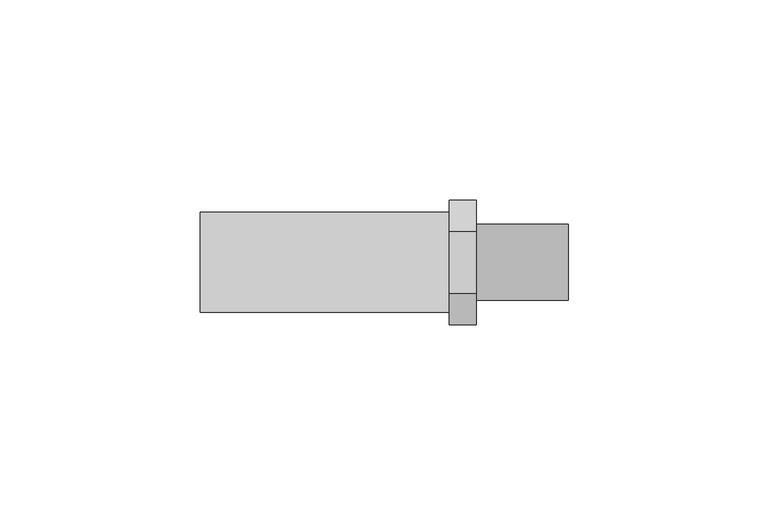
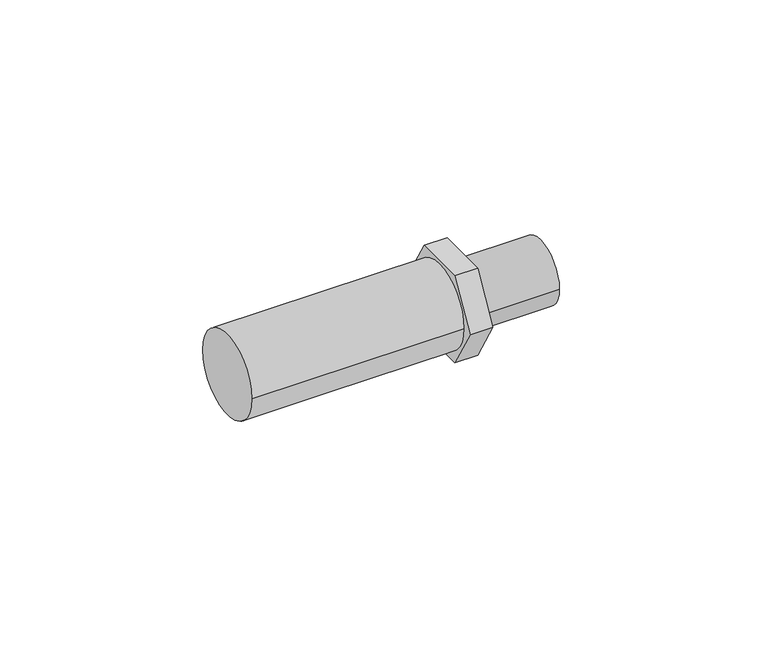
"""IFC4 building model written with IfcOpenShell, lengths in millimetres: pipe fitting geometry, 01011113 : Douilles."""

from ifc_helpers import new_model, si_unit, point, frame, origin, origin_2d, place, context, project, spatial, circle_curve, trimmed, segment, composite_curve, outline, extrude, source, transform, mapped, element, save
from ifc_brep_helpers import plane_surface, cylinder_surface, advanced_brep


def pipe_fitting_440be6f9(model_context):
    return source(origin(), model_context, "Body", "SolidModel", [
        extrude(outline(composite_curve([segment(trimmed(circle_curve(origin_2d(), 12.5), [point((12.5, 0.0))], [point((-12.5, 0.0))], False, "CARTESIAN"), True, "CONTINUOUS"), segment(trimmed(circle_curve(origin_2d(), 12.5), [point((-12.5, 0.0))], [point((12.5, 0.0))], False, "CARTESIAN"), True, "CONTINUOUS")], self_intersect=False)), frame((-46.0, 0.0, 0.0), z_axis=(1.0, 0.0, 0.0), x_axis=(0.0, 1.0, 0.0)), (0.0, 0.0, 1.0), 62.25),
        advanced_brep(
        [(23.0, -7.7942286, 13.5), (23.0, -15.5884573, 0.0), (23.0, -7.7942286, -13.5), (23.0, 7.7942286, -13.5), (23.0, 15.5884573, 0.0), (23.0, 7.7942286, 13.5), (23.0, -9.525, 0.0), (23.0, 9.525, 0.0), (16.25, -7.7942286, 13.5), (16.25, 7.7942286, 13.5), (16.25, 15.5884573, 0.0), (16.25, 7.7942286, -13.5), (16.25, -7.7942286, -13.5), (16.25, -15.5884573, 0.0), (46.0, -9.525, 0.0), (46.0, 9.525, 0.0)],
        [
            (0, 1),
            (1, 2),
            (2, 3),
            (3, 4),
            (4, 5),
            (5, 0),
            (6, 7, circle_curve(frame((23.0, 0.0, 0.0), z_axis=(-1.0, 0.0, 0.0), x_axis=(0.0, 1.0, 0.0)), 9.525)),
            (7, 6, circle_curve(frame((23.0, 0.0, 0.0), z_axis=(-1.0, 0.0, 0.0), x_axis=(0.0, 1.0, 0.0)), 9.525)),
            (8, 9),
            (9, 10),
            (10, 11),
            (11, 12),
            (12, 13),
            (13, 8),
            (0, 8),
            (13, 1),
            (12, 2),
            (11, 3),
            (10, 4),
            (9, 5),
            (14, 15, circle_curve(frame((46.0, 0.0, 0.0), z_axis=(1.0, 0.0, 0.0), x_axis=(0.0, 1.0, 0.0)), 9.525)),
            (15, 14, circle_curve(frame((46.0, 0.0, 0.0), z_axis=(1.0, 0.0, 0.0), x_axis=(0.0, 1.0, 0.0)), 9.525)),
            (15, 7),
            (6, 14),
        ],
        [
            plane_surface(frame((23.0, -7.7942286, 13.5), z_axis=(1.0, 0.0, 0.0), x_axis=(0.0, -0.5000000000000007, -0.8660254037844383))),
            plane_surface(frame((16.25, -7.7942286, 13.5), z_axis=(-1.0, 0.0, 0.0), x_axis=(0.0, 0.5000000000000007, 0.8660254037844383))),
            plane_surface(frame((23.0, -7.7942286, 13.5), z_axis=(0.0, -0.8660254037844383, 0.5000000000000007), x_axis=(-1.0, 0.0, 0.0))),
            plane_surface(frame((23.0, -15.5884573, 0.0), z_axis=(0.0, -0.866025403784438, -0.500000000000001), x_axis=(-1.0, 0.0, 0.0))),
            plane_surface(frame((23.0, -7.7942286, -13.5), z_axis=(0.0, 0.0, -1.0), x_axis=(-1.0, 0.0, 0.0))),
            plane_surface(frame((23.0, 7.7942286, -13.5), z_axis=(0.0, 0.8660254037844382, -0.5000000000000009), x_axis=(-1.0, 0.0, 0.0))),
            plane_surface(frame((23.0, 15.5884573, 0.0), z_axis=(0.0, 0.8660254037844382, 0.500000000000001), x_axis=(-1.0, 0.0, 0.0))),
            plane_surface(frame((23.0, 7.7942286, 13.5), z_axis=(0.0, 0.0, 1.0), x_axis=(-1.0, 0.0, 0.0))),
            plane_surface(frame((46.0, 0.0, 0.0), z_axis=(1.0, 0.0, 0.0), x_axis=(0.0, 0.0, 1.0))),
            cylinder_surface(frame((23.0, 0.0, 0.0), z_axis=(-1.0, 0.0, 0.0), x_axis=(0.0, 1.0, 0.0)), 9.525),
        ],
        [
            (0, [[1, 2, 3, 4, 5, 6], [7, 8]]),
            (1, [[9, 10, 11, 12, 13, 14]]),
            (2, [[-1, 15, -14, 16]]),
            (3, [[-2, -16, -13, 17]]),
            (4, [[-3, -17, -12, 18]]),
            (5, [[-4, -18, -11, 19]]),
            (6, [[-5, -19, -10, 20]]),
            (7, [[-6, -20, -9, -15]]),
            (8, [[21, 22]]),
            (9, [[-22, 23, -7, 24]]),
            (9, [[-21, -24, -8, -23]]),
        ],
    ),
    ])


if __name__ == "__main__":
    model = new_model("IFC4")
    model_context = context("Model", 3, world=origin())
    ifc_project = project(units=[si_unit("LENGTHUNIT", "METRE", prefix="MILLI")], contexts=[model_context])
    site = spatial("IfcSite", under=ifc_project)
    building = spatial("IfcBuilding", under=site)
    placement = place(None, origin())
    pipe_fitting_shape = pipe_fitting_440be6f9(model_context)
    element("IfcPipeFitting", 1, ObjectType="01011113 : Douilles", at=placement, inside=building, context=model_context, shape_type="MappedRepresentation", body=[
        mapped(pipe_fitting_shape, transform((0.0, 0.0, 0.0), x_axis=(1.0, 0.0, 0.0), y_axis=(0.0, 1.0, 0.0), z_axis=(0.0, 0.0, 1.0))),
    ])
    save(model, "model.ifc")
